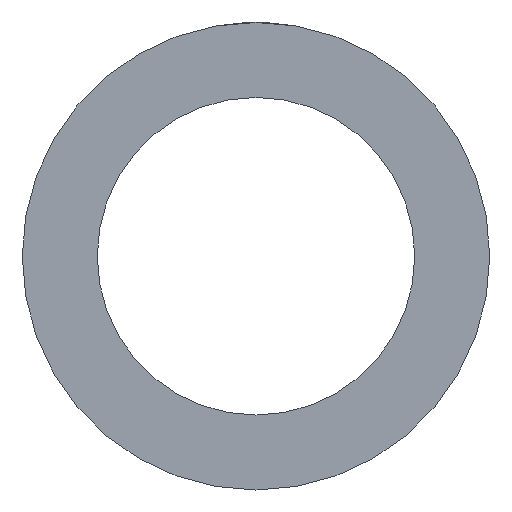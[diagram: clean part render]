
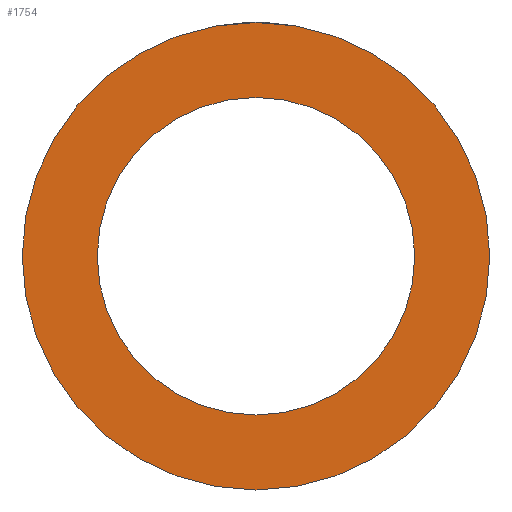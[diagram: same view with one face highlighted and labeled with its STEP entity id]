
A CAD part, left-side view. The second image highlights one B-rep face of the part: STEP entity #1754.
In plain terms, the highlighted planar face has unit normal (-1, 0, 0).
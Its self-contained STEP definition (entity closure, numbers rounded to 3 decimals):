
#10 = CIRCLE ( 'NONE', #2831, 241. ) ;
#53 = CARTESIAN_POINT ( 'NONE',  ( 0., 0., 163.7 ) ) ;
#234 = DIRECTION ( 'NONE',  ( 0., 0., 1. ) ) ;
#236 = DIRECTION ( 'NONE',  ( -1., 0., 0. ) ) ;
#242 = CARTESIAN_POINT ( 'NONE',  ( 0., 0., 0. ) ) ;
#429 = FACE_OUTER_BOUND ( 'NONE', #2440, .T. ) ;
#484 = ORIENTED_EDGE ( 'NONE', *, *, #1374, .F. ) ;
#498 = ORIENTED_EDGE ( 'NONE', *, *, #2890, .F. ) ;
#512 = ORIENTED_EDGE ( 'NONE', *, *, #1654, .T. ) ;
#519 = ORIENTED_EDGE ( 'NONE', *, *, #933, .T. ) ;
#563 = DIRECTION ( 'NONE',  ( 0., 0., 1. ) ) ;
#574 = DIRECTION ( 'NONE',  ( -1., 0., 0. ) ) ;
#580 = CARTESIAN_POINT ( 'NONE',  ( 0., 0., 0. ) ) ;
#747 = DIRECTION ( 'NONE',  ( 0., 0., -1. ) ) ;
#753 = CARTESIAN_POINT ( 'NONE',  ( 0., 0., -241. ) ) ;
#761 = DIRECTION ( 'NONE',  ( 1., 0., 0. ) ) ;
#773 = CARTESIAN_POINT ( 'NONE',  ( 0., 163.7, 0. ) ) ;
#933 = EDGE_CURVE ( 'NONE', #1706, #2212, #10, .T. ) ;
#1003 = PLANE ( 'NONE',  #2024 ) ;
#1225 = CARTESIAN_POINT ( 'NONE',  ( 0., 0., -163.7 ) ) ;
#1374 = EDGE_CURVE ( 'NONE', #2704, #2311, #2494, .T. ) ;
#1441 = AXIS2_PLACEMENT_3D ( 'NONE', #580, #574, #563 ) ;
#1454 = CARTESIAN_POINT ( 'NONE',  ( 0., 0., 241. ) ) ;
#1654 = EDGE_CURVE ( 'NONE', #2212, #1706, #1729, .T. ) ;
#1706 = VERTEX_POINT ( 'NONE', #753 ) ;
#1729 = CIRCLE ( 'NONE', #3062, 241. ) ;
#1754 = ADVANCED_FACE ( 'NONE', ( #1841, #429 ), #1003, .F. ) ;
#1841 = FACE_BOUND ( 'NONE', #2688, .T. ) ;
#2024 = AXIS2_PLACEMENT_3D ( 'NONE', #773, #761, #747 ) ;
#2034 = DIRECTION ( 'NONE',  ( 0., 0., 1. ) ) ;
#2048 = DIRECTION ( 'NONE',  ( -1., 0., 0. ) ) ;
#2061 = CARTESIAN_POINT ( 'NONE',  ( 0., 0., 0. ) ) ;
#2212 = VERTEX_POINT ( 'NONE', #1454 ) ;
#2272 = AXIS2_PLACEMENT_3D ( 'NONE', #2670, #2653, #2644 ) ;
#2311 = VERTEX_POINT ( 'NONE', #1225 ) ;
#2359 = CIRCLE ( 'NONE', #2272, 163.7 ) ;
#2440 = EDGE_LOOP ( 'NONE', ( #512, #519 ) ) ;
#2494 = CIRCLE ( 'NONE', #1441, 163.7 ) ;
#2644 = DIRECTION ( 'NONE',  ( 0., 0., 1. ) ) ;
#2653 = DIRECTION ( 'NONE',  ( -1., 0., 0. ) ) ;
#2670 = CARTESIAN_POINT ( 'NONE',  ( 0., 0., 0. ) ) ;
#2688 = EDGE_LOOP ( 'NONE', ( #484, #498 ) ) ;
#2704 = VERTEX_POINT ( 'NONE', #53 ) ;
#2831 = AXIS2_PLACEMENT_3D ( 'NONE', #242, #236, #234 ) ;
#2890 = EDGE_CURVE ( 'NONE', #2311, #2704, #2359, .T. ) ;
#3062 = AXIS2_PLACEMENT_3D ( 'NONE', #2061, #2048, #2034 ) ;
